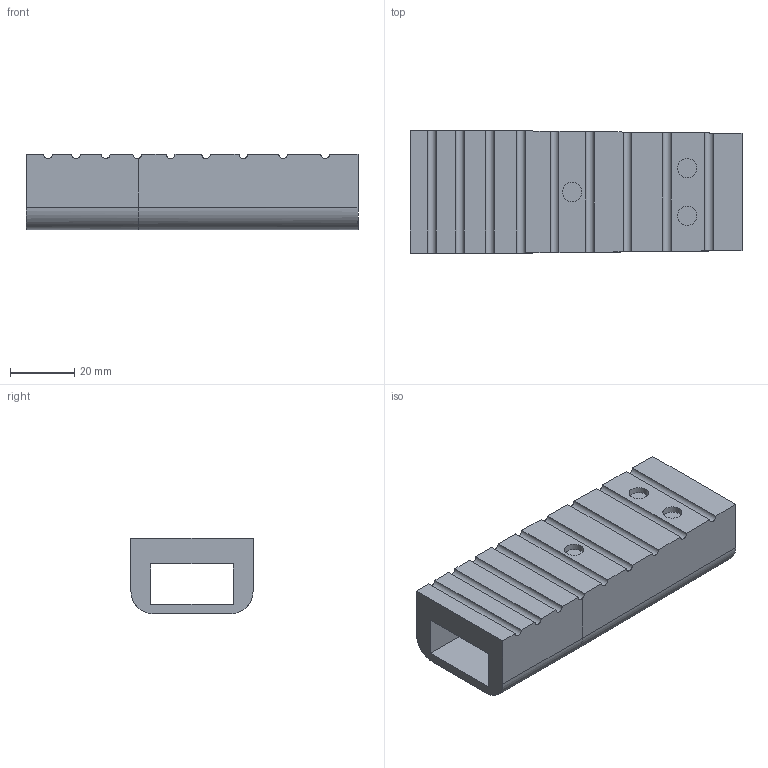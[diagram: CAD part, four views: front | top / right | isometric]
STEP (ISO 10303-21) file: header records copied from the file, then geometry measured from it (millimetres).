
FILE_DESCRIPTION(('STEP AP203'), '1');
FILE_NAME('ëàä 3', '', ('UNSPECIFIED'), ('UNSPECIFIED'), 'ASCON STEP Converter 1.3', 'ASCON Math Kernel', '');
FILE_SCHEMA(('CONFIG_CONTROL_DESIGN'));
Length unit declared in the file: millimetre
Bounding box: 103.29 x 38 x 23.5 mm (x, y, z)
Volume: 54367.2 mm3; surface area: 21514.3 mm2
Topology: 1 solids, 1 shells, 40 faces, 103 edges, 68 vertices
Faces by surface type: plane 24, cylinder 16
Full cylindrical faces by diameter (mm): 6 x3
Entity records: 1560 total; most frequent: CARTESIAN_POINT 257, ORIENTED_EDGE 200, DIRECTION 182, EDGE_CURVE 100, VERTEX_POINT 68, LINE 68, VECTOR 68, AXIS2_PLACEMENT_3D 57
